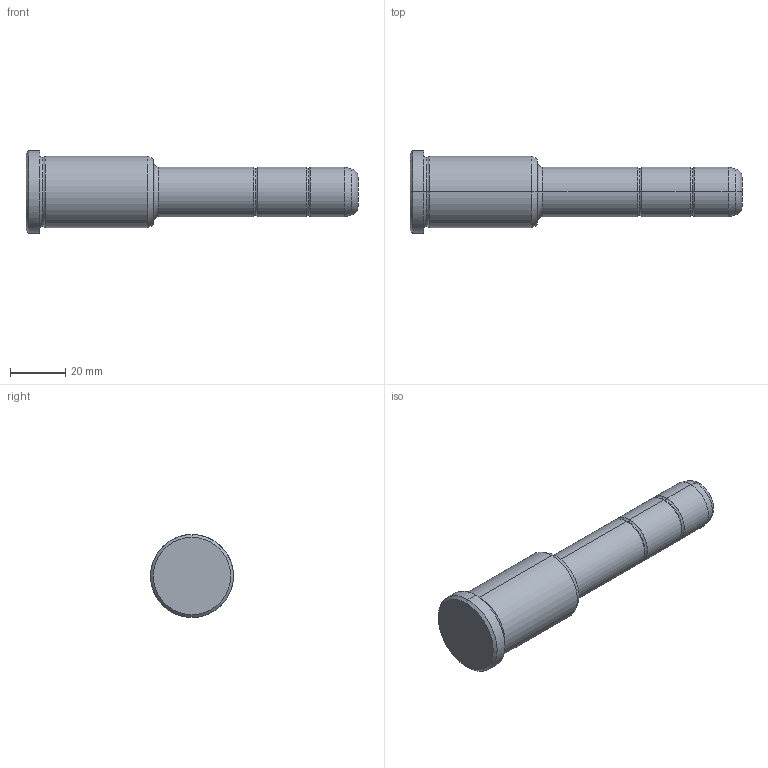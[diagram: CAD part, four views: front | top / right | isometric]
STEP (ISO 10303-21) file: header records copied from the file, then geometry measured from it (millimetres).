
FILE_DESCRIPTION(('CATIA V5 STEP Exchange'),'2;1');
FILE_NAME('C:\Users\Utente\Desktop\IO LAVORO\3D X SITO CF\X SITO\PLASTICA\351\351-18X46X120.stp','2021-08-19T12:36:46+00:00',('none'),('none'),'CATIA Version 5 Release 20 GA (IN-10)','CATIA V5 STEP AP203','none');
FILE_SCHEMA(('CONFIG_CONTROL_DESIGN'));
Length unit declared in the file: millimetre
Products named in the file (1): 351-18X46X120
Bounding box: 120 x 30 x 30 mm (x, y, z)
Volume: 43700.9 mm3; surface area: 9188.1 mm2
Topology: 1 solids, 1 shells, 36 faces, 102 edges, 70 vertices
Faces by surface type: torus 16, cylinder 10, cone 6, plane 4
Entity records: 1292 total; most frequent: CARTESIAN_POINT 321, ORIENTED_EDGE 204, DIRECTION 166, AXIS2_PLACEMENT_3D 115, EDGE_CURVE 102, CIRCLE 78, VERTEX_POINT 70, EDGE_LOOP 38
